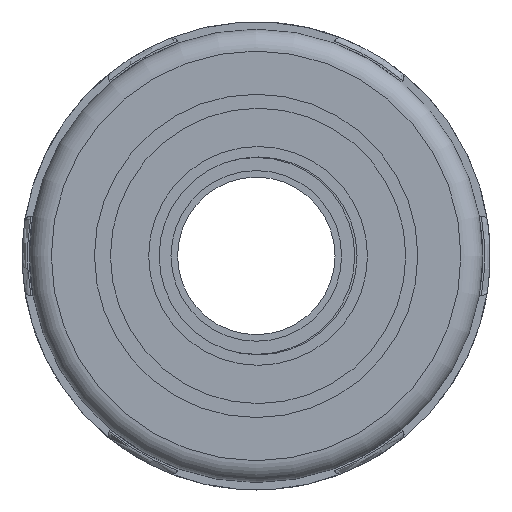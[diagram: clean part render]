
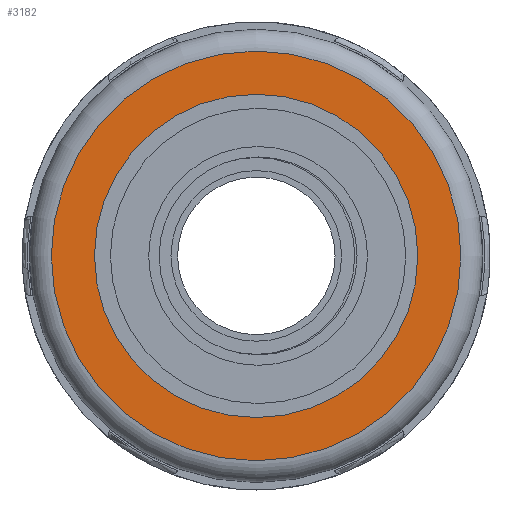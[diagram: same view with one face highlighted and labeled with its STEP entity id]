
A CAD part, left-side view. The second image highlights one B-rep face of the part: STEP entity #3182.
In plain terms, the highlighted planar face has unit normal (-1, 0, 0).
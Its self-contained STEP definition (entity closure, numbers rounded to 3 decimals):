
#799=PLANE('',#3548);
#834=FACE_BOUND('',#1258,.T.);
#1037=FACE_OUTER_BOUND('',#1257,.T.);
#1257=EDGE_LOOP('',(#2839));
#1258=EDGE_LOOP('',(#2840));
#1386=CIRCLE('',#3547,18.725);
#1387=CIRCLE('',#3549,14.78);
#1670=VERTEX_POINT('',#13329);
#1671=VERTEX_POINT('',#13332);
#2091=EDGE_CURVE('',#1670,#1670,#1386,.T.);
#2092=EDGE_CURVE('',#1671,#1671,#1387,.T.);
#2839=ORIENTED_EDGE('',*,*,#2091,.F.);
#2840=ORIENTED_EDGE('',*,*,#2092,.T.);
#3182=ADVANCED_FACE('',(#1037,#834),#799,.T.);
#3547=AXIS2_PLACEMENT_3D('',#13330,#4341,#4342);
#3548=AXIS2_PLACEMENT_3D('',#13331,#4343,#4344);
#3549=AXIS2_PLACEMENT_3D('',#13333,#4345,#4346);
#4341=DIRECTION('center_axis',(1.,0.,0.));
#4342=DIRECTION('ref_axis',(0.,-1.,0.));
#4343=DIRECTION('center_axis',(-1.,0.,0.));
#4344=DIRECTION('ref_axis',(0.,0.,1.));
#4345=DIRECTION('center_axis',(1.,0.,0.));
#4346=DIRECTION('ref_axis',(0.,0.,-1.));
#13329=CARTESIAN_POINT('',(5.222,18.725,0.));
#13330=CARTESIAN_POINT('Origin',(5.222,0.,0.));
#13331=CARTESIAN_POINT('Origin',(5.222,20.725,0.));
#13332=CARTESIAN_POINT('',(5.222,14.78,0.));
#13333=CARTESIAN_POINT('Origin',(5.222,0.,0.));
